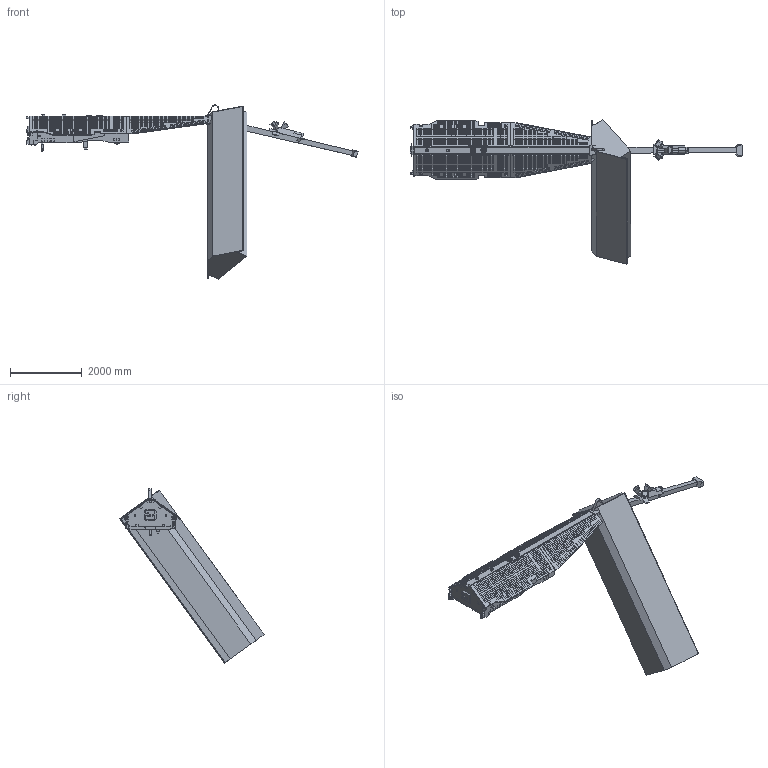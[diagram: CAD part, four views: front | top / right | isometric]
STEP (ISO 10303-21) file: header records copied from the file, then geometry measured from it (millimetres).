
FILE_DESCRIPTION(('CATIA V5 STEP Exchange'),'2;1');
FILE_NAME('O:\Swarm_G_March\Swarm_CAD_STP.stp','2018-03-14T16:28:39+00:00',('none'),('none'),'CATIA Version 5 Release 21 SP 6 (IN-10)','CATIA V5 STEP AP203','none');
FILE_SCHEMA(('CONFIG_CONTROL_DESIGN'));
Products named in the file (1): Final_Swarm
Bounding box: 9223.12 x 4008.88 x 4838.45 mm (x, y, z)
Volume: 6639997994.9 mm3; surface area: 49322626.3 mm2
Topology: 1 solids, 1 shells, 5703 faces, 13949 edges, 9284 vertices
Faces by surface type: plane 5621, cylinder 68, cone 10, sphere 4
Entity records: 139117 total; most frequent: ORIENTED_EDGE 27882, CARTESIAN_POINT 23966, DIRECTION 15409, EDGE_CURVE 13941, VECTOR 13775, LINE 13775, VERTEX_POINT 9284, EDGE_LOOP 6767
